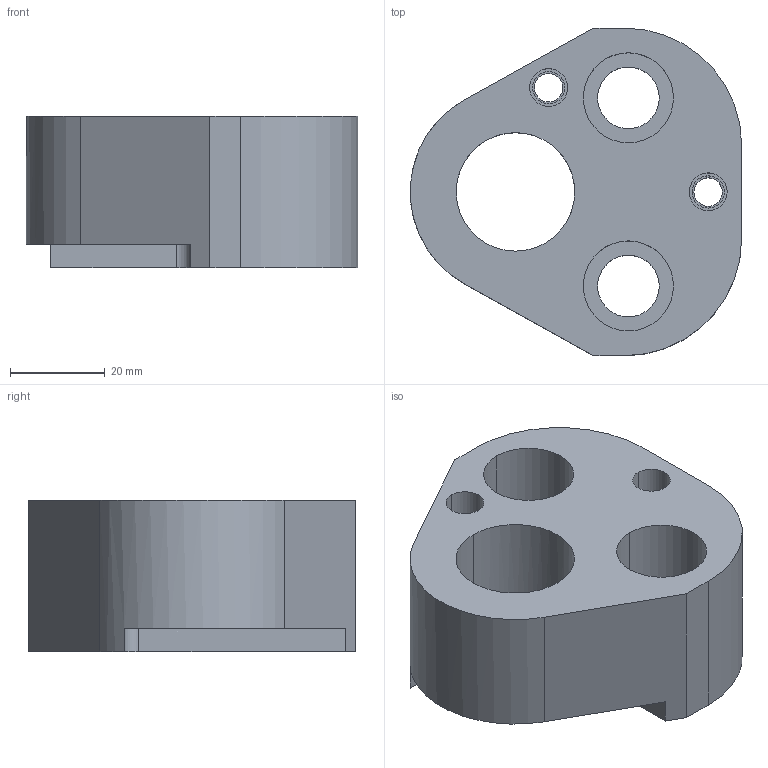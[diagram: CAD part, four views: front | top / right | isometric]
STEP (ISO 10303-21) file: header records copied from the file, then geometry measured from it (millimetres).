
FILE_DESCRIPTION(/* description */ (''),/* implementation_level */ '2;1');
FILE_NAME(/* name */ '3d_crn-f25_03640_r00.stp',/* time_stamp */ '2011-01-10T14:16:22+09:00',/* author */ ('MISUMI'),/* organization */ (''),/* preprocessor_version */ 'ST-DEVELOPER v11',/* originating_system */ 'UGS - NX 5.0',/* authorisation */ '');
FILE_SCHEMA (('CONFIG_CONTROL_DESIGN'));
Length unit declared in the file: millimetre
Products named in the file (1): 3d_crn-f25_03640_r00
Bounding box: 69.86 x 69.1 x 32 mm (x, y, z)
Volume: 83069.2 mm3; surface area: 19489.3 mm2
Topology: 1 solids, 1 shells, 44 faces, 111 edges, 74 vertices
Faces by surface type: cylinder 26, plane 16, cone 2
Entity records: 1458 total; most frequent: DIRECTION 256, CARTESIAN_POINT 233, ORIENTED_EDGE 222, EDGE_CURVE 111, AXIS2_PLACEMENT_3D 101, VERTEX_POINT 74, EDGE_LOOP 59, CIRCLE 56
